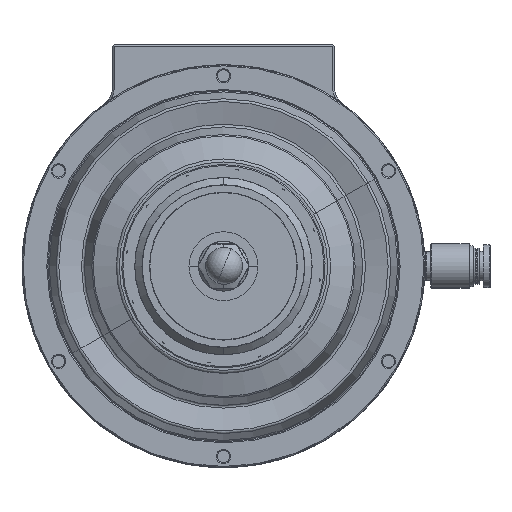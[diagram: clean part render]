
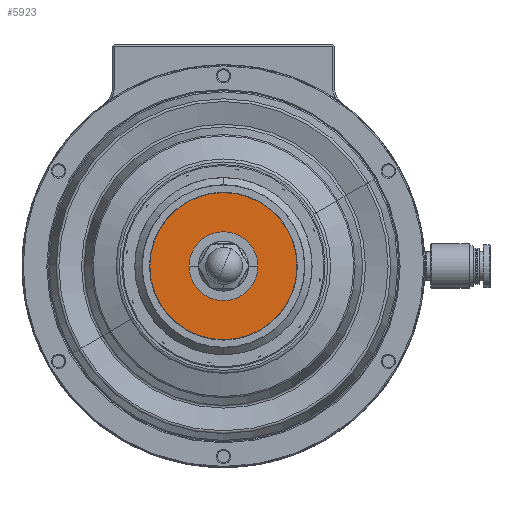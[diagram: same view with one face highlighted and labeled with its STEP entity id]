
A CAD part, front view. The second image highlights one B-rep face of the part: STEP entity #5923.
In plain terms, the highlighted planar face has unit normal (0, -1, 0).
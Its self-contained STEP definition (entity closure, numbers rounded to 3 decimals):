
#1944 = EDGE_CURVE ( 'NONE', #3473, #28666, #23676, .T. ) ;
#2312 = ORIENTED_EDGE ( 'NONE', *, *, #4129, .T. ) ;
#3473 = VERTEX_POINT ( 'NONE', #25607 ) ;
#3749 = DIRECTION ( 'NONE',  ( 0., 0., -1. ) ) ;
#4088 = DIRECTION ( 'NONE',  ( 0., -1., 0. ) ) ;
#4129 = EDGE_CURVE ( 'NONE', #28666, #3473, #8189, .T. ) ;
#4176 = DIRECTION ( 'NONE',  ( 0., 1., 0. ) ) ;
#5106 = AXIS2_PLACEMENT_3D ( 'NONE', #11734, #23143, #12697 ) ;
#5613 = CARTESIAN_POINT ( 'NONE',  ( -9.325, -75.811, 0. ) ) ;
#5923 = ADVANCED_FACE ( 'NONE', ( #9382, #33520 ), #22794, .T. ) ;
#6231 = CIRCLE ( 'NONE', #27739, 9.315 ) ;
#8189 = CIRCLE ( 'NONE', #9522, 19.9 ) ;
#9382 = FACE_BOUND ( 'NONE', #23520, .T. ) ;
#9522 = AXIS2_PLACEMENT_3D ( 'NONE', #28763, #12072, #3749 ) ;
#11734 = CARTESIAN_POINT ( 'NONE',  ( -0.01, -75.811, 0. ) ) ;
#12072 = DIRECTION ( 'NONE',  ( 0., -1., 0. ) ) ;
#12697 = DIRECTION ( 'NONE',  ( 1., 0., 0. ) ) ;
#12832 = CARTESIAN_POINT ( 'NONE',  ( -0.01, -75.811, 0. ) ) ;
#14461 = EDGE_CURVE ( 'NONE', #31405, #29736, #21177, .T. ) ;
#15027 = AXIS2_PLACEMENT_3D ( 'NONE', #28564, #34206, #17417 ) ;
#15704 = ORIENTED_EDGE ( 'NONE', *, *, #14461, .T. ) ;
#17417 = DIRECTION ( 'NONE',  ( 0., 0., -1. ) ) ;
#21177 = CIRCLE ( 'NONE', #5106, 9.315 ) ;
#21837 = CARTESIAN_POINT ( 'NONE',  ( 9.305, -75.811, 0. ) ) ;
#22794 = PLANE ( 'NONE',  #15027 ) ;
#23143 = DIRECTION ( 'NONE',  ( 0., 1., 0. ) ) ;
#23520 = EDGE_LOOP ( 'NONE', ( #30831, #15704 ) ) ;
#23676 = CIRCLE ( 'NONE', #29454, 19.9 ) ;
#23768 = DIRECTION ( 'NONE',  ( 1., 0., 0. ) ) ;
#25181 = EDGE_CURVE ( 'NONE', #29736, #31405, #6231, .T. ) ;
#25607 = CARTESIAN_POINT ( 'NONE',  ( -0.01, -75.811, 19.9 ) ) ;
#26395 = CARTESIAN_POINT ( 'NONE',  ( -0.01, -75.811, 0. ) ) ;
#27739 = AXIS2_PLACEMENT_3D ( 'NONE', #12832, #4176, #23768 ) ;
#28564 = CARTESIAN_POINT ( 'NONE',  ( 4.99, -75.811, 0. ) ) ;
#28666 = VERTEX_POINT ( 'NONE', #30295 ) ;
#28763 = CARTESIAN_POINT ( 'NONE',  ( -0.01, -75.811, 0. ) ) ;
#29454 = AXIS2_PLACEMENT_3D ( 'NONE', #26395, #4088, #34969 ) ;
#29736 = VERTEX_POINT ( 'NONE', #5613 ) ;
#30295 = CARTESIAN_POINT ( 'NONE',  ( -0.01, -75.811, -19.9 ) ) ;
#30831 = ORIENTED_EDGE ( 'NONE', *, *, #25181, .T. ) ;
#31020 = ORIENTED_EDGE ( 'NONE', *, *, #1944, .T. ) ;
#31405 = VERTEX_POINT ( 'NONE', #21837 ) ;
#33520 = FACE_OUTER_BOUND ( 'NONE', #33957, .T. ) ;
#33957 = EDGE_LOOP ( 'NONE', ( #2312, #31020 ) ) ;
#34206 = DIRECTION ( 'NONE',  ( 0., -1., 0. ) ) ;
#34969 = DIRECTION ( 'NONE',  ( 0., 0., -1. ) ) ;
